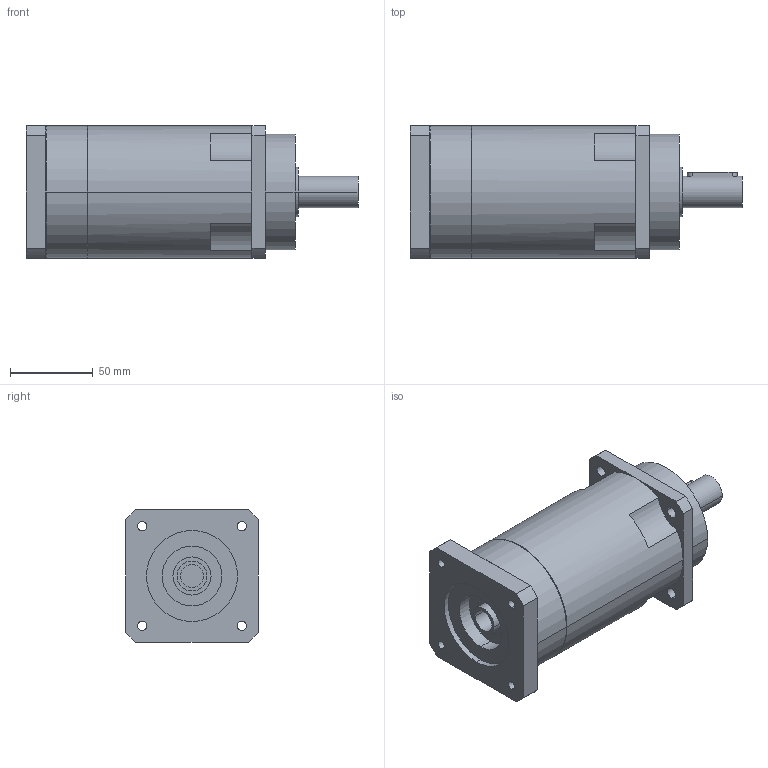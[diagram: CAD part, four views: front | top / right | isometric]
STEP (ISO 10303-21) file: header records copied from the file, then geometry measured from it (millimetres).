
FILE_DESCRIPTION(('CoCreate Modeling STEP Export'),'2;1');
FILE_NAME('GPR100_ig-48-64-80-100-120-144-180-216_19_B5_14_P20.stp','2014-08-26T11:54:44',(''),(''),'CoCreate Modeling STEP processor for AP214 (Solid Model)','CoCreate Modeling 16.00C 25-Feb-2009 (C) Parametric Technology GmbH','');
FILE_SCHEMA(('AUTOMOTIVE_DESIGN { 1 0 10303 214 1 1 1 1 }'));
Length unit declared in the file: millimetre
Products named in the file (2): GPR100_ig-48-64-80-100-120-144-180-216_19_B5_14_P20
Assembly tree (1 placements, depth 2):
  GPR100_ig-48-64-80-100-120-144-180-216_19_B5_14_P20
    GPR100_ig-48-64-80-100-120-144-180-216_19_B5_14_P20
Bounding box: 200.4 x 80 x 80 mm (x, y, z)
Volume: 801478.5 mm3; surface area: 64831.3 mm2
Topology: 1 solids, 1 shells, 105 faces, 289 edges, 195 vertices
Faces by surface type: cylinder 60, plane 39, cone 6
Entity records: 3095 total; most frequent: CARTESIAN_POINT 633, ORIENTED_EDGE 574, DIRECTION 436, EDGE_CURVE 287, VERTEX_POINT 195, AXIS2_PLACEMENT_3D 166, EDGE_LOOP 132, FACE_OUTER_BOUND 105
